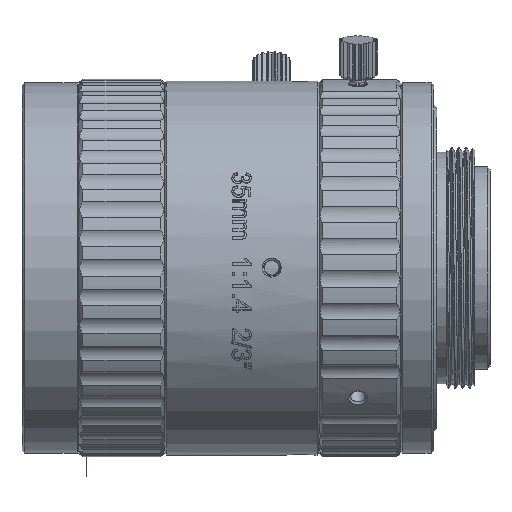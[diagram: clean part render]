
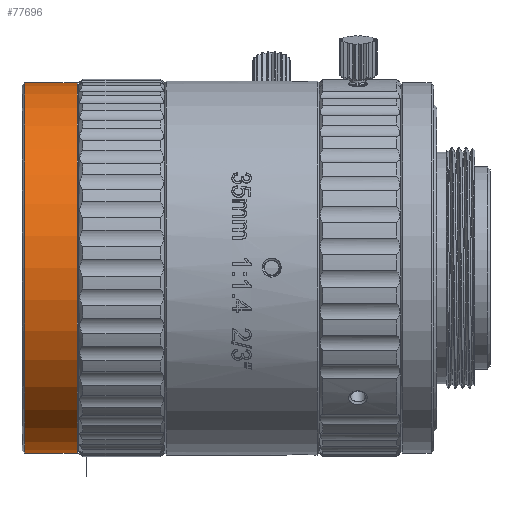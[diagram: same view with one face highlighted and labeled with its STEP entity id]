
A CAD part, top view. The second image highlights one B-rep face of the part: STEP entity #77696.
In plain terms, the highlighted cylindrical face has radius 19.5 mm (diameter 39 mm), a partial arc.
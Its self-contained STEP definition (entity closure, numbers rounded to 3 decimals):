
#75063=CARTESIAN_POINT('',(-26.925,0.,0.));
#75064=DIRECTION('',(1.,0.,0.));
#75065=DIRECTION('',(0.,1.,0.));
#75066=AXIS2_PLACEMENT_3D('',#75063,#75064,#75065);
#75078=DIRECTION('',(-1.,0.,0.));
#75079=VECTOR('',#75078,5.5);
#75080=CARTESIAN_POINT('',(-26.925,19.5,
0.));
#75081=LINE('',#75080,#75079);
#75082=DIRECTION('',(1.,0.,0.));
#75083=VECTOR('',#75082,5.5);
#75084=CARTESIAN_POINT('',(-32.425,-19.5,0.));
#75085=LINE('',#75084,#75083);
#75096=CARTESIAN_POINT('',(-32.425,0.,0.));
#75097=DIRECTION('',(1.,0.,0.));
#75098=DIRECTION('',(0.,1.,0.));
#75099=AXIS2_PLACEMENT_3D('',#75096,#75097,#75098);
#76537=CARTESIAN_POINT('',(-26.925,-19.5,
0.));
#76538=VERTEX_POINT('',#76537);
#76539=CARTESIAN_POINT('',(-26.925,19.5,
0.));
#76540=VERTEX_POINT('',#76539);
#76541=CARTESIAN_POINT('',(-32.425,-19.5,0.));
#76542=VERTEX_POINT('',#76541);
#76543=CARTESIAN_POINT('',(-32.425,19.5,0.));
#76544=VERTEX_POINT('',#76543);
#77682=CARTESIAN_POINT('',(-32.535,0.,0.));
#77683=DIRECTION('',(1.,0.,0.));
#77684=DIRECTION('',(0.,-1.,0.));
#77685=AXIS2_PLACEMENT_3D('',#77682,#77683,#77684);
#77686=CYLINDRICAL_SURFACE('',#77685,19.5);
#77687=ORIENTED_EDGE('',*,*,#77676,.T.);
#77689=ORIENTED_EDGE('',*,*,#77688,.F.);
#77691=ORIENTED_EDGE('',*,*,#77690,.F.);
#77693=ORIENTED_EDGE('',*,*,#77692,.F.);
#77694=EDGE_LOOP('',(#77687,#77689,#77691,#77693));
#77695=FACE_OUTER_BOUND('',#77694,.F.);
#75067=CIRCLE('',#75066,19.5);
#75100=CIRCLE('',#75099,19.5);
#77676=EDGE_CURVE('',#76540,#76538,#75067,.T.);
#77688=EDGE_CURVE('',#76542,#76538,#75085,.T.);
#77690=EDGE_CURVE('',#76544,#76542,#75100,.T.);
#77692=EDGE_CURVE('',#76540,#76544,#75081,.T.);
#77696=ADVANCED_FACE('',(#77695),#77686,.T.);
